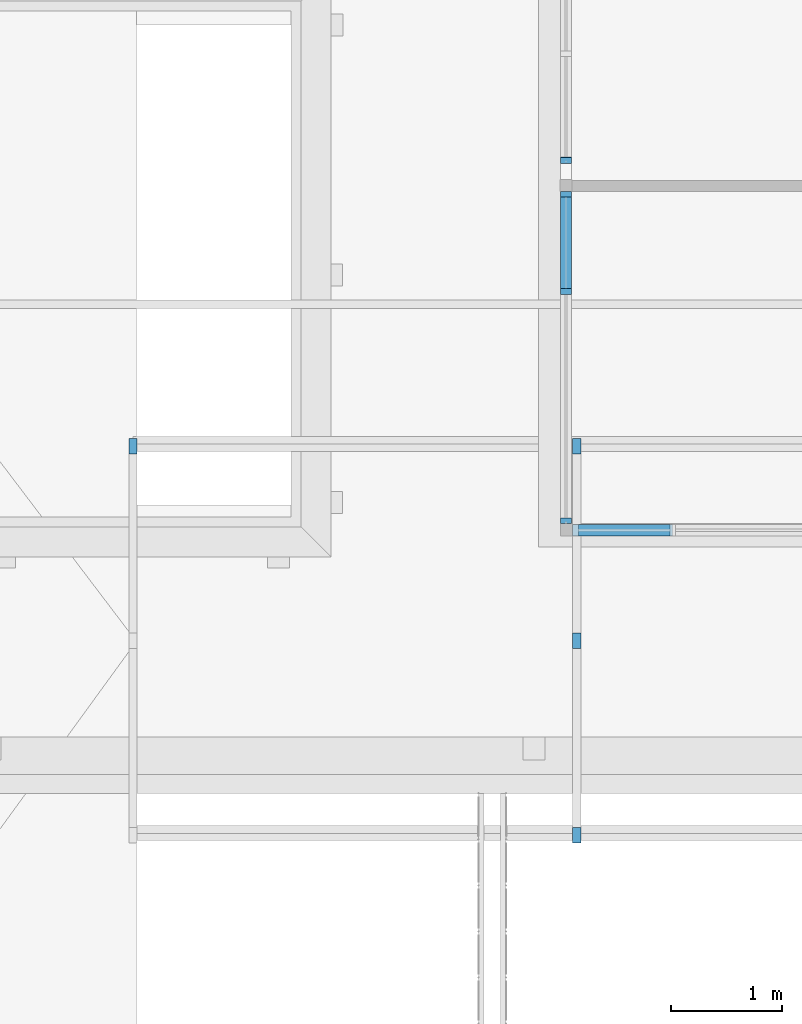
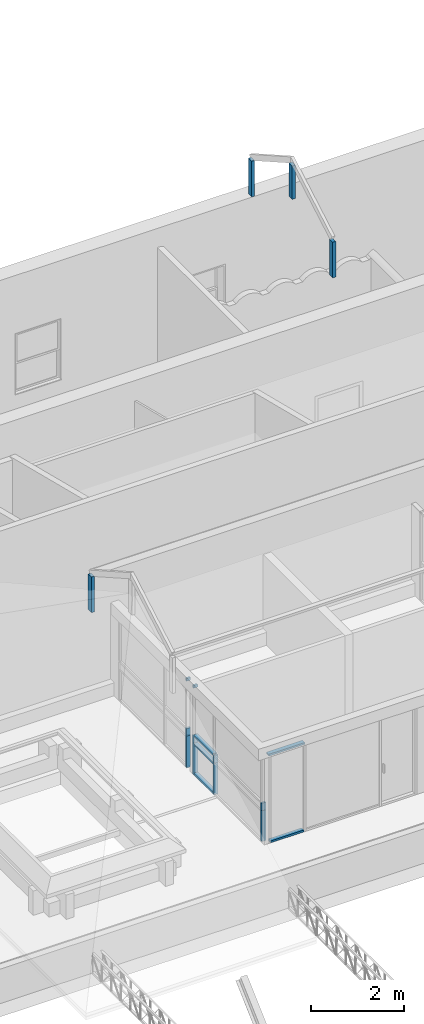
# One storey, part 34 of 153: 21 members, 5 elements without a shape of their own.
"""IFC4 building model written with IfcOpenShell, lengths in metres."""

import ifcopenshell
import ifcopenshell.guid

model = None  # the IFC model being written
_history = None  # IfcOwnerHistory: only IFC2X3 demands one
_inside = {}  # id of a spatial element -> (the spatial element, [elements in it])
_under = {}  # id of a project, library or spatial element -> (it, [spatial elements below it])
_declared = {}  # id of a project -> (the project, [libraries it declares])
_typed = {}  # id of a type object -> (the type object, [elements of that type])
_made_of = {}  # id of a material, layer set ... -> (it, [elements and type objects made of it])


def new_model(schema):
    """Start an empty IFC model of exactly this schema.

    Asked for "IFC4X3", IfcOpenShell would pick the latest addendum, in which some entities
    have other attributes; the version numbers below select the first issue.
    IFC2X3 requires an IfcOwnerHistory on every rooted entity: one is made here for all.
    """
    global model, _history
    if schema == "IFC4X3":
        model = ifcopenshell.file(schema_version=(4, 3, 0, 0))
    else:
        model = ifcopenshell.file(schema=schema)
    _inside.clear()
    _under.clear()
    _declared.clear()
    _typed.clear()
    _made_of.clear()
    _history = None
    if model.schema == "IFC2X3":
        org = make("IfcOrganization", Name="unknown")
        user = make(
            "IfcPersonAndOrganization",
            ThePerson=make("IfcPerson", FamilyName="unknown"),
            TheOrganization=org,
        )
        app = make(
            "IfcApplication",
            ApplicationDeveloper=org,
            Version="unknown",
            ApplicationFullName="unknown",
            ApplicationIdentifier="unknown",
        )
        _history = make(
            "IfcOwnerHistory",
            OwningUser=user,
            OwningApplication=app,
            ChangeAction="ADDED",
            CreationDate=0,
        )
    return model


def make(cls, **values):
    """One entity of the class cls with the attributes given. An attribute that is None is left unset."""
    return model.create_entity(
        cls, **{name: value for name, value in values.items() if value is not None}
    )


def entity(cls, *values):
    """Any entity or typed value of the class cls, its attributes in the order of the schema. None: left unset."""
    e = model.create_entity(cls)
    for i, value in enumerate(values):
        if value is not None:
            e[i] = value
    return e


def rooted(cls, **values):
    """An entity with a GlobalId (a new one), such as an element, a storey or a relation."""
    return make(cls, GlobalId=ifcopenshell.guid.new(), OwnerHistory=_history, **values)


def si_unit(unit_type, name, prefix=None):
    """IfcSIUnit, for example si_unit("LENGTHUNIT", "METRE", prefix="MILLI")."""
    return make("IfcSIUnit", UnitType=unit_type, Prefix=prefix, Name=name)


def converted_unit(unit_type, name, factor, base, dimensions=None, offset=None):
    """IfcConversionBasedUnit, such as the inch: factor (a typed value) times the base unit."""
    return make(
        "IfcConversionBasedUnit"
        if offset is None
        else "IfcConversionBasedUnitWithOffset",
        ConversionOffset=offset,
        Dimensions=None
        if dimensions is None
        else entity("IfcDimensionalExponents", *dimensions),
        UnitType=unit_type,
        Name=name,
        ConversionFactor=make(
            "IfcMeasureWithUnit", ValueComponent=factor, UnitComponent=base
        ),
    )


def derived_unit(unit_type, elements):
    """IfcDerivedUnit: a product of units, each with its exponent."""
    return make(
        "IfcDerivedUnit",
        Elements=[
            make("IfcDerivedUnitElement", Unit=unit, Exponent=power)
            for unit, power in elements
        ],
        UnitType=unit_type,
    )


def assignment(units):
    """IfcUnitAssignment: the units of a project."""
    return None if units is None else make("IfcUnitAssignment", Units=units)


def point(xyz):
    """IfcCartesianPoint."""
    return None if xyz is None else make("IfcCartesianPoint", Coordinates=xyz)


def direction(xyz):
    """IfcDirection."""
    return None if xyz is None else make("IfcDirection", DirectionRatios=xyz)


def frame(location, z_axis=None, x_axis=None):
    """IfcAxis2Placement3D, a coordinate frame: its origin and axes. An axis left out is left unset."""
    return make(
        "IfcAxis2Placement3D",
        Location=point(location),
        Axis=direction(z_axis),
        RefDirection=direction(x_axis),
    )


def origin():
    """The frame at (0, 0, 0) with its axes left unset."""
    return frame((0.0, 0.0, 0.0))


def place(relative_to, where):
    """IfcLocalPlacement: puts the frame where relative to a parent placement (None: the world)."""
    return make(
        "IfcLocalPlacement", PlacementRelTo=relative_to, RelativePlacement=where
    )


def context(
    kind, dimensions, precision=None, world=None, true_north=None, identifier=None
):
    """IfcGeometricRepresentationContext, for example the 3D "Model" context."""
    return make(
        "IfcGeometricRepresentationContext",
        ContextIdentifier=identifier,
        ContextType=kind,
        CoordinateSpaceDimension=dimensions,
        Precision=precision,
        WorldCoordinateSystem=world,
        TrueNorth=true_north,
    )


def subcontext(parent, identifier, kind, view, scale=None):
    """IfcGeometricRepresentationSubContext, for example "Body" below "Model"."""
    return make(
        "IfcGeometricRepresentationSubContext",
        ContextIdentifier=identifier,
        ContextType=kind,
        ParentContext=parent,
        TargetScale=scale,
        TargetView=view,
    )


def project(units=None, contexts=None):
    """IfcProject with its units and contexts."""
    return rooted(
        "IfcProject",
        Name="project",
        RepresentationContexts=contexts,
        UnitsInContext=assignment(units),
    )


def spatial(cls, under=None, at=None, **own):
    """A site, building, storey or space (cls), placed at a placement, below another one or the project."""
    s = rooted(cls, ObjectPlacement=at, **own)
    if under is not None:
        _under.setdefault(under.id(), (under, []))[1].append(s)
    return s


def point_list(points):
    """IfcCartesianPointList2D or 3D."""
    cls = (
        "IfcCartesianPointList2D" if len(points[0]) == 2 else "IfcCartesianPointList3D"
    )
    return make(cls, CoordList=points)


def indexed_curve(points, segments=None, self_intersect=None):
    """IfcIndexedPolyCurve: lines and arcs through numbered points (the first is 1)."""
    return make(
        "IfcIndexedPolyCurve",
        Points=point_list(points),
        Segments=segments,
        SelfIntersect=self_intersect,
    )


def outline(outer, holes=None, kind="AREA"):
    """IfcArbitraryClosedProfileDef: a profile drawn as a closed curve; with holes, ...WithVoids."""
    if holes is None:
        return make("IfcArbitraryClosedProfileDef", ProfileType=kind, OuterCurve=outer)
    return make(
        "IfcArbitraryProfileDefWithVoids",
        ProfileType=kind,
        OuterCurve=outer,
        InnerCurves=holes,
    )


def extrude(swept, where, along, depth):
    """IfcExtrudedAreaSolid: the profile swept, set in the frame where, extruded along a direction by depth."""
    return make(
        "IfcExtrudedAreaSolid",
        SweptArea=swept,
        Position=where,
        ExtrudedDirection=direction(along),
        Depth=depth,
    )


def shape(context_of_items, identifier, shape_type, items):
    """IfcShapeRepresentation: the items that make up one representation, for example the "Body"."""
    return make(
        "IfcShapeRepresentation",
        ContextOfItems=context_of_items,
        RepresentationIdentifier=identifier,
        RepresentationType=shape_type,
        Items=items,
    )


def source(mapping_origin, context_of_items, identifier, shape_type, items):
    """IfcRepresentationMap: a shape defined once, which mapped items show again and again."""
    return make(
        "IfcRepresentationMap",
        MappingOrigin=mapping_origin,
        MappedRepresentation=shape(context_of_items, identifier, shape_type, items),
    )


def transform(
    local_origin,
    x_axis=None,
    y_axis=None,
    z_axis=None,
    scale=None,
    scale2=None,
    scale3=None,
    uniform=True,
):
    """IfcCartesianTransformationOperator3D, or its non-uniform kind. x_axis, y_axis, z_axis: its Axis1, 2, 3."""
    if uniform:
        return make(
            "IfcCartesianTransformationOperator3D",
            Axis1=direction(x_axis),
            Axis2=direction(y_axis),
            LocalOrigin=point(local_origin),
            Scale=scale,
            Axis3=direction(z_axis),
        )
    return make(
        "IfcCartesianTransformationOperator3DnonUniform",
        Axis1=direction(x_axis),
        Axis2=direction(y_axis),
        LocalOrigin=point(local_origin),
        Scale=scale,
        Axis3=direction(z_axis),
        Scale2=scale2,
        Scale3=scale3,
    )


def mapped(mapping_source, mapping_target):
    """IfcMappedItem: shows the shape of a source again, moved by a transform."""
    return make(
        "IfcMappedItem", MappingSource=mapping_source, MappingTarget=mapping_target
    )


def material(Name=None, Category=None):
    """IfcMaterial."""
    return make("IfcMaterial", Name=Name, Category=Category)


def made_of(thing, what):
    """Note that an element or type object is made of a material, layer set ...; save() writes the relation."""
    if what is not None:
        _made_of.setdefault(what.id(), (what, []))[1].append(thing)
    return thing


def type_object(cls, material=None, **own):
    """A type object (cls), such as IfcWallType, which elements share."""
    return made_of(rooted(cls, **own), material)


def type_shapes(of_type, sources):
    """Give a type object the sources (RepresentationMaps) that its elements show as mapped items."""
    of_type.RepresentationMaps = sources


def element(
    cls,
    number,
    at=None,
    inside=None,
    cuts=None,
    type_object=None,
    material=None,
    context=None,
    identifier="Body",
    shape_type=None,
    held_by="IfcProductDefinitionShape",
    body=None,
    shapes=None,
    **own,
):
    """One element of the class cls, such as IfcWall. Its Tag is "e" and its number.

    at: its placement. inside: the storey or other place that contains it. cuts: it is an
    opening in that element (IfcRelVoidsElement). A single representation is given by context,
    identifier, shape_type and body (its items); several are given by shapes. held_by: the class
    of the entity that holds the representations. save() writes the other relations.
    """
    e = rooted(cls, Tag="e%d" % number, ObjectPlacement=at, **own)
    if body is not None:
        shapes = [shape(context, identifier, shape_type, body)]
    if shapes is not None:
        e.Representation = make(held_by, Representations=shapes)
    if inside is not None:
        _inside.setdefault(inside.id(), (inside, []))[1].append(e)
    if cuts is not None:
        rooted(
            "IfcRelVoidsElement", RelatingBuildingElement=cuts, RelatedOpeningElement=e
        )
    if type_object is not None:
        _typed.setdefault(type_object.id(), (type_object, []))[1].append(e)
    return made_of(e, material)


def aggregate(whole, parts):
    """IfcRelAggregates: a whole, such as a stair, and the parts it consists of."""
    return rooted("IfcRelAggregates", RelatingObject=whole, RelatedObjects=parts)


def save(model, path):
    """Write the relations noted so far, then the file.

    IfcRelAggregates (storeys below a building ...), IfcRelContainedInSpatialStructure (elements
    in a storey), IfcRelDefinesByType, IfcRelAssociatesMaterial and IfcRelDeclares: one each for
    every whole, place, type object, material and project.
    """
    for whole, parts in _under.values():
        aggregate(whole, parts)
    for where, things in _inside.values():
        rooted(
            "IfcRelContainedInSpatialStructure",
            RelatedElements=things,
            RelatingStructure=where,
        )
    for kind, things in _typed.values():
        rooted("IfcRelDefinesByType", RelatedObjects=things, RelatingType=kind)
    for what, things in _made_of.values():
        rooted("IfcRelAssociatesMaterial", RelatedObjects=things, RelatingMaterial=what)
    for by, libraries in _declared.values():
        rooted("IfcRelDeclares", RelatingContext=by, RelatedDefinitions=libraries)
    model.write(path)


model = new_model("IFC4")

# Units and contexts
model_context = context("Model", 3, precision=1e-05, world=origin(), true_north=direction((6.123031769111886e-17, 1.0)))
body_context = subcontext(model_context, "Body", "Model", "MODEL_VIEW")
ifc_project = project(units=[si_unit("LENGTHUNIT", "METRE"), si_unit("AREAUNIT", "SQUARE_METRE"), si_unit("VOLUMEUNIT", "CUBIC_METRE"), converted_unit("PLANEANGLEUNIT", "DEGREE", entity("IfcRatioMeasure", 0.017453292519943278), si_unit("PLANEANGLEUNIT", "RADIAN"), dimensions=[0, 0, 0, 0, 0, 0, 0]), si_unit("MASSUNIT", "GRAM", prefix="KILO"), derived_unit("MASSDENSITYUNIT", [(si_unit("MASSUNIT", "GRAM", prefix="KILO"), 1), (si_unit("LENGTHUNIT", "METRE"), -3)]), derived_unit("MOMENTOFINERTIAUNIT", [(si_unit("LENGTHUNIT", "METRE"), 4)]), si_unit("TIMEUNIT", "SECOND"), si_unit("FREQUENCYUNIT", "HERTZ"), si_unit("THERMODYNAMICTEMPERATUREUNIT", "DEGREE_CELSIUS"), derived_unit("THERMALTRANSMITTANCEUNIT", [(si_unit("MASSUNIT", "GRAM", prefix="KILO"), 1), (si_unit("THERMODYNAMICTEMPERATUREUNIT", "KELVIN"), -1), (si_unit("TIMEUNIT", "SECOND"), -3)]), derived_unit("VOLUMETRICFLOWRATEUNIT", [(si_unit("LENGTHUNIT", "METRE"), 3), (si_unit("TIMEUNIT", "SECOND"), -1)]), derived_unit("MASSFLOWRATEUNIT", [(si_unit("MASSUNIT", "GRAM", prefix="KILO"), 1), (si_unit("TIMEUNIT", "SECOND"), -1)]), derived_unit("ROTATIONALFREQUENCYUNIT", [(si_unit("TIMEUNIT", "SECOND"), -1)]), si_unit("ELECTRICCURRENTUNIT", "AMPERE"), si_unit("ELECTRICVOLTAGEUNIT", "VOLT"), si_unit("POWERUNIT", "WATT"), si_unit("FORCEUNIT", "NEWTON", prefix="KILO"), si_unit("ILLUMINANCEUNIT", "LUX"), si_unit("LUMINOUSFLUXUNIT", "LUMEN"), si_unit("LUMINOUSINTENSITYUNIT", "CANDELA"), derived_unit("USERDEFINED", [(si_unit("MASSUNIT", "GRAM", prefix="KILO"), -1), (si_unit("LENGTHUNIT", "METRE"), -2), (si_unit("TIMEUNIT", "SECOND"), 3), (si_unit("LUMINOUSFLUXUNIT", "LUMEN"), 1)]), derived_unit("SOUNDPOWERUNIT", [(si_unit("MASSUNIT", "GRAM", prefix="KILO"), 1), (si_unit("LENGTHUNIT", "METRE"), 2), (si_unit("TIMEUNIT", "SECOND"), -3)]), derived_unit("SOUNDPRESSUREUNIT", [(si_unit("MASSUNIT", "GRAM", prefix="KILO"), 1), (si_unit("LENGTHUNIT", "METRE"), -1), (si_unit("TIMEUNIT", "SECOND"), -2)]), derived_unit("LINEARVELOCITYUNIT", [(si_unit("LENGTHUNIT", "METRE"), 1), (si_unit("TIMEUNIT", "SECOND"), -1)]), si_unit("PRESSUREUNIT", "PASCAL"), derived_unit("USERDEFINED", [(si_unit("LENGTHUNIT", "METRE"), -2), (si_unit("MASSUNIT", "GRAM", prefix="KILO"), 1), (si_unit("TIMEUNIT", "SECOND"), -2)]), derived_unit("LINEARFORCEUNIT", [(si_unit("MASSUNIT", "GRAM", prefix="KILO"), 1), (si_unit("LENGTHUNIT", "METRE"), 1), (si_unit("TIMEUNIT", "SECOND"), -2), (si_unit("LENGTHUNIT", "METRE"), -1)]), derived_unit("PLANARFORCEUNIT", [(si_unit("MASSUNIT", "GRAM", prefix="KILO"), 1), (si_unit("LENGTHUNIT", "METRE"), 1), (si_unit("TIMEUNIT", "SECOND"), -2), (si_unit("LENGTHUNIT", "METRE"), -2)])], contexts=[model_context])

# Site, building, storey
site_placement = place(None, origin())
site = spatial("IfcSite", under=ifc_project, at=site_placement, Name="Superficie", CompositionType="ELEMENT")
building_placement = place(site_placement, origin())
building = spatial("IfcBuilding", under=site, at=building_placement, CompositionType="ELEMENT")
storey_placement = place(building_placement, frame((0.0, 0.0, 3.5999999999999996)))
storey = spatial("IfcBuildingStorey", under=building, at=storey_placement, Name="Nivel 1", CompositionType="ELEMENT", Elevation=3.5999999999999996)

# Curtain wall, members
curtain_wall_type = type_object("IfcCurtainWallType", Name="Muro cortina:Muro cortina - simple", PredefinedType="NOTDEFINED")
curtain_wall_1_placement = place(storey_placement, frame((0.0, 0.0, -3.5999999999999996)))
curtain_wall_1 = element("IfcCurtainWall", 1, at=curtain_wall_1_placement, inside=storey, type_object=curtain_wall_type, Name="Muro cortina:Muro cortina - simple", ObjectType="Muro cortina:Muro cortina - simple", PredefinedType="NOTDEFINED")
ifc_material_1 = material(Name="<Unnamed>")
member_type_1 = type_object("IfcMemberType", Name="Montante rectangular:Montante rectangular - 5 x 10 cm", PredefinedType="MULLION", material=ifc_material_1)
shared_shape_1 = source(origin(), body_context, "Body", "SweptSolid", [
    extrude(outline(indexed_curve([(-0.05, -0.025), (0.05, -0.025), (0.05, 0.025), (-0.05, 0.025), (-0.05, -0.025)], self_intersect=False)), frame((0.0, 0.0, -0.8250000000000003), z_axis=(0.0, 0.0, 1.0), x_axis=(0.0, -1.0, 0.0)), (0.0, 0.0, 1.0), 0.8249999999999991),
])
type_shapes(member_type_1, [shared_shape_1])
member_1_placement = place(curtain_wall_1_placement, frame((-13.023200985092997, 2.0363932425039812, 3.619999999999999), z_axis=(0.0, 1.0, 0.0), x_axis=(0.0, 0.0, 1.0)))
member_1 = element("IfcMember", 2, at=member_1_placement, type_object=member_type_1, material=ifc_material_1, Name="Montante rectangular:Montante rectangular - 5 x 10 cm", ObjectType="Montante rectangular:Montante rectangular - 5 x 10 cm", PredefinedType="MULLION", context=body_context, shape_type="MappedRepresentation", body=[
    mapped(shared_shape_1, transform((0.0, 0.0, 0.0), scale=1.0)),
])
member_2_placement = place(curtain_wall_1_placement, frame((-13.023200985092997, 2.0363932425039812, 4.63), z_axis=(0.0, 1.0, 0.0), x_axis=(0.0, 0.0, 1.0)))
member_2 = element("IfcMember", 3, at=member_2_placement, type_object=member_type_1, material=ifc_material_1, Name="Montante rectangular:Montante rectangular - 5 x 10 cm", ObjectType="Montante rectangular:Montante rectangular - 5 x 10 cm", PredefinedType="MULLION", context=body_context, shape_type="MappedRepresentation", body=[
    mapped(shared_shape_1, transform((0.0, 0.0, 0.0), scale=1.0)),
])
member_type_2 = type_object("IfcMemberType", Name="Montante rectangular:Montante rectangular - 5 x 10 cm", PredefinedType="MULLION", material=ifc_material_1)
shared_shape_2 = source(origin(), body_context, "Body", "SweptSolid", [
    extrude(outline(indexed_curve([(-0.05, -0.025), (0.05, -0.025), (0.05, 0.025), (-0.05, 0.025), (-0.05, -0.025)], self_intersect=False)), frame((0.0, 0.0, -0.19999999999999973), z_axis=(0.0, 0.0, 1.0), x_axis=(0.0, -1.0, 0.0)), (0.0, 0.0, 1.0), 0.19999999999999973),
])
type_shapes(member_type_2, [shared_shape_2])
member_3_placement = place(curtain_wall_1_placement, frame((-13.023200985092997, 1.1863932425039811, 4.43), z_axis=(0.0, 0.0, -1.0), x_axis=(0.0, 1.0, 0.0)))
member_3 = element("IfcMember", 4, at=member_3_placement, type_object=member_type_2, material=ifc_material_1, Name="Montante rectangular:Montante rectangular - 5 x 10 cm", ObjectType="Montante rectangular:Montante rectangular - 5 x 10 cm", PredefinedType="MULLION", context=body_context, shape_type="MappedRepresentation", body=[
    mapped(shared_shape_2, transform((0.0, 0.0, 0.0), scale=1.0)),
])

# Curtain wall, member
curtain_wall_2_placement = place(storey_placement, frame((0.0, 0.0, -3.5999999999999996)))
curtain_wall_2 = element("IfcCurtainWall", 5, at=curtain_wall_2_placement, inside=storey, type_object=curtain_wall_type, Name="Muro cortina:Muro cortina - simple", ObjectType="Muro cortina:Muro cortina - simple", PredefinedType="NOTDEFINED")
member_4_placement = place(curtain_wall_2_placement, frame((-13.023200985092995, 2.366393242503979, 4.43), z_axis=(0.0, 0.0, -1.0), x_axis=(0.0, 1.0, 0.0)))
member_4 = element("IfcMember", 6, at=member_4_placement, type_object=member_type_2, material=ifc_material_1, Name="Montante rectangular:Montante rectangular - 5 x 10 cm", ObjectType="Montante rectangular:Montante rectangular - 5 x 10 cm", PredefinedType="MULLION", context=body_context, shape_type="MappedRepresentation", body=[
    mapped(shared_shape_2, transform((0.0, 0.0, 0.0), scale=1.0)),
])

# Member
member_type_3 = type_object("IfcMemberType", Name="Montante rectangular:Montante rectangular - 5 x 10 cm", PredefinedType="MULLION", material=ifc_material_1)
shared_shape_3 = source(origin(), body_context, "Body", "SweptSolid", [
    extrude(outline(indexed_curve([(-0.05, -0.025), (0.05, -0.025), (0.05, 0.025), (-0.05, 0.025), (-0.05, -0.025)], self_intersect=False)), frame((0.0, 0.0, -0.8350000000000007), z_axis=(0.0, 0.0, 1.0), x_axis=(0.0, -1.0, 0.0)), (0.0, 0.0, 1.0), 0.8350000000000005),
])
type_shapes(member_type_3, [shared_shape_3])
member_5_placement = place(curtain_wall_1_placement, frame((-13.023200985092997, 1.186393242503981, 3.5949999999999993), z_axis=(0.0, 0.0, -1.0), x_axis=(0.0, 1.0, 0.0)))
member_5 = element("IfcMember", 7, at=member_5_placement, type_object=member_type_3, material=ifc_material_1, Name="Montante rectangular:Montante rectangular - 5 x 10 cm", ObjectType="Montante rectangular:Montante rectangular - 5 x 10 cm", PredefinedType="MULLION", context=body_context, shape_type="MappedRepresentation", body=[
    mapped(shared_shape_3, transform((0.0, 0.0, 0.0), scale=1.0)),
])

member_6_placement = place(curtain_wall_2_placement, frame((-13.023200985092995, 2.366393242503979, 3.5949999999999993), z_axis=(0.0, 0.0, -1.0), x_axis=(0.0, 1.0, 0.0)))
member_6 = element("IfcMember", 8, at=member_6_placement, type_object=member_type_3, material=ifc_material_1, Name="Montante rectangular:Montante rectangular - 5 x 10 cm", ObjectType="Montante rectangular:Montante rectangular - 5 x 10 cm", PredefinedType="MULLION", context=body_context, shape_type="MappedRepresentation", body=[
    mapped(shared_shape_3, transform((0.0, 0.0, 0.0), scale=1.0)),
])

member_type_4 = type_object("IfcMemberType", Name="Montante rectangular:Montante rectangular - 5 x 10 cm", PredefinedType="MULLION", material=ifc_material_1)
shared_shape_4 = source(origin(), body_context, "Body", "SweptSolid", [
    extrude(outline(indexed_curve([(-0.05, -0.025), (0.05, -0.025), (0.05, 0.025), (-0.05, 0.025), (-0.05, -0.025)], self_intersect=False)), frame((-0.025, 0.0, -0.19999999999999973), z_axis=(0.0, 0.0, 1.0), x_axis=(0.0, -1.0, 0.0)), (0.0, 0.0, 1.0), 0.19999999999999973),
])
type_shapes(member_type_4, [shared_shape_4])
member_7_placement = place(curtain_wall_1_placement, frame((-13.023200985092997, -0.9047671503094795, 4.63), z_axis=(0.0, 0.0, 1.0), x_axis=(0.0, -1.0, 0.0)))
member_7 = element("IfcMember", 9, at=member_7_placement, type_object=member_type_4, material=ifc_material_1, Name="Montante rectangular:Montante rectangular - 5 x 10 cm", ObjectType="Montante rectangular:Montante rectangular - 5 x 10 cm", PredefinedType="MULLION", context=body_context, shape_type="MappedRepresentation", body=[
    mapped(shared_shape_4, transform((0.0, 0.0, 0.0), scale=1.0)),
])

member_8_placement = place(curtain_wall_2_placement, frame((-13.023200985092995, 2.346393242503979, 4.63), z_axis=(0.0, 0.0, 1.0), x_axis=(0.0, -1.0, 0.0)))
member_8 = element("IfcMember", 10, at=member_8_placement, type_object=member_type_4, material=ifc_material_1, Name="Montante rectangular:Montante rectangular - 5 x 10 cm", ObjectType="Montante rectangular:Montante rectangular - 5 x 10 cm", PredefinedType="MULLION", context=body_context, shape_type="MappedRepresentation", body=[
    mapped(shared_shape_4, transform((0.0, 0.0, 0.0), scale=1.0)),
])

member_type_5 = type_object("IfcMemberType", Name="Montante rectangular:Montante rectangular - 5 x 10 cm", PredefinedType="MULLION", material=ifc_material_1)
shared_shape_5 = source(origin(), body_context, "Body", "SweptSolid", [
    extrude(outline(indexed_curve([(-0.05, -0.025), (0.05, -0.025), (0.05, 0.025), (-0.05, 0.025), (-0.05, -0.025)], self_intersect=False)), frame((0.0, 0.0, -0.07000000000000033), z_axis=(0.0, 0.0, 1.0), x_axis=(0.0, -1.0, 0.0)), (0.0, 0.0, 1.0), 0.07000000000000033),
])
type_shapes(member_type_5, [shared_shape_5])
member_9_placement = place(curtain_wall_2_placement, frame((-13.023200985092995, 2.366393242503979, 5.879999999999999), z_axis=(0.0, 0.0, -1.0), x_axis=(0.0, 1.0, 0.0)))
member_9 = element("IfcMember", 11, at=member_9_placement, type_object=member_type_5, material=ifc_material_1, Name="Montante rectangular:Montante rectangular - 5 x 10 cm", ObjectType="Montante rectangular:Montante rectangular - 5 x 10 cm", PredefinedType="MULLION", context=body_context, shape_type="MappedRepresentation", body=[
    mapped(shared_shape_5, transform((0.0, 0.0, 0.0), scale=1.0)),
])

member_type_6 = type_object("IfcMemberType", Name="Montante rectangular:Montante rectangular - 5 x 10 cm", PredefinedType="MULLION", material=ifc_material_1)
shared_shape_6 = source(origin(), body_context, "Body", "SweptSolid", [
    extrude(outline(indexed_curve([(-0.05, -0.025), (0.05, -0.025), (0.05, 0.025), (-0.05, 0.025), (-0.05, -0.025)], self_intersect=False)), frame((-0.025, 0.0, -0.8099999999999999), z_axis=(0.0, 0.0, 1.0), x_axis=(0.0, -1.0, 0.0)), (0.0, 0.0, 1.0), 0.8099999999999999),
])
type_shapes(member_type_6, [shared_shape_6])
member_10_placement = place(curtain_wall_1_placement, frame((-13.023200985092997, -0.9047671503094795, 4.43), z_axis=(0.0, 0.0, 1.0), x_axis=(0.0, -1.0, 0.0)))
member_10 = element("IfcMember", 12, at=member_10_placement, type_object=member_type_6, material=ifc_material_1, Name="Montante rectangular:Montante rectangular - 5 x 10 cm", ObjectType="Montante rectangular:Montante rectangular - 5 x 10 cm", PredefinedType="MULLION", context=body_context, shape_type="MappedRepresentation", body=[
    mapped(shared_shape_6, transform((0.0, 0.0, 0.0), scale=1.0)),
])

member_11_placement = place(curtain_wall_2_placement, frame((-13.023200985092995, 2.346393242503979, 4.43), z_axis=(0.0, 0.0, 1.0), x_axis=(0.0, -1.0, 0.0)))
member_11 = element("IfcMember", 13, at=member_11_placement, type_object=member_type_6, material=ifc_material_1, Name="Montante rectangular:Montante rectangular - 5 x 10 cm", ObjectType="Montante rectangular:Montante rectangular - 5 x 10 cm", PredefinedType="MULLION", context=body_context, shape_type="MappedRepresentation", body=[
    mapped(shared_shape_6, transform((0.0, 0.0, 0.0), scale=1.0)),
])

aggregate(curtain_wall_2, [member_11, member_8, member_4, member_9, member_6])

# Curtain wall, members
curtain_wall_3_placement = place(storey_placement, frame((0.0, 0.0, -3.5999999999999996)))
curtain_wall_3 = element("IfcCurtainWall", 14, at=curtain_wall_3_placement, inside=storey, type_object=curtain_wall_type, Name="Muro cortina:Muro cortina - simple", ObjectType="Muro cortina:Muro cortina - simple", PredefinedType="NOTDEFINED")
member_type_7 = type_object("IfcMemberType", Name="Montante rectangular:Montante rectangular - 5 x 10 cm", PredefinedType="MULLION", material=ifc_material_1)
shared_shape_7 = source(origin(), body_context, "Body", "SweptSolid", [
    extrude(outline(indexed_curve([(-0.05, -0.025), (0.05, -0.025), (0.05, 0.025), (-0.05, 0.025), (-0.05, -0.025)], self_intersect=False)), frame((-0.025, 0.0, -0.9), z_axis=(0.0, 0.0, 1.0), x_axis=(0.0, -1.0, 0.0)), (0.0, 0.0, 1.0), 0.9),
])
type_shapes(member_type_7, [shared_shape_7])
member_12_placement = place(curtain_wall_3_placement, frame((-12.063200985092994, -0.9636067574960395, 5.949999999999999), z_axis=(1.0, 0.0, 0.0), x_axis=(0.0, 0.0, 1.0)))
member_12 = element("IfcMember", 15, at=member_12_placement, type_object=member_type_7, material=ifc_material_1, Name="Montante rectangular:Montante rectangular - 5 x 10 cm", ObjectType="Montante rectangular:Montante rectangular - 5 x 10 cm", PredefinedType="MULLION", context=body_context, shape_type="MappedRepresentation", body=[
    mapped(shared_shape_7, transform((0.0, 0.0, 0.0), scale=1.0)),
])
member_type_8 = type_object("IfcMemberType", Name="Montante rectangular:Montante rectangular - 5 x 10 cm", PredefinedType="MULLION", material=ifc_material_1)
shared_shape_8 = source(origin(), body_context, "Body", "SweptSolid", [
    extrude(outline(indexed_curve([(-0.05, -0.025), (0.05, -0.025), (0.05, 0.025), (-0.05, 0.025), (-0.05, -0.025)], self_intersect=False)), frame((-0.025, 0.0, -0.8250000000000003), z_axis=(0.0, 0.0, 1.0), x_axis=(0.0, -1.0, 0.0)), (0.0, 0.0, 1.0), 0.8250000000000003),
])
type_shapes(member_type_8, [shared_shape_8])
member_13_placement = place(curtain_wall_3_placement, frame((-12.913200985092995, -0.9636067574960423, 3.5999999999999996), z_axis=(-1.0, 0.0, 0.0), x_axis=(0.0, 0.0, -1.0)))
member_13 = element("IfcMember", 16, at=member_13_placement, type_object=member_type_8, material=ifc_material_1, Name="Montante rectangular:Montante rectangular - 5 x 10 cm", ObjectType="Montante rectangular:Montante rectangular - 5 x 10 cm", PredefinedType="MULLION", context=body_context, shape_type="MappedRepresentation", body=[
    mapped(shared_shape_8, transform((0.0, 0.0, 0.0), scale=1.0)),
])
aggregate(curtain_wall_3, [member_12, member_13])

# Member
member_type_9 = type_object("IfcMemberType", Name="Montante rectangular:Montante rectangular - 5 x 10 cm", PredefinedType="MULLION", material=ifc_material_1)
shared_shape_9 = source(origin(), body_context, "Body", "SweptSolid", [
    extrude(outline(indexed_curve([(-0.05, -0.025), (0.05, -0.025), (0.05, 0.025), (-0.05, 0.025), (-0.05, -0.025)], self_intersect=False)), frame((-0.025, 0.0, -0.2), z_axis=(0.0, 0.0, 1.0), x_axis=(0.0, -1.0, 0.0)), (0.0, 0.0, 1.0), 0.2),
])
type_shapes(member_type_9, [shared_shape_9])
member_14_placement = place(curtain_wall_1_placement, frame((-13.023200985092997, 2.086393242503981, 4.43), z_axis=(0.0, 0.0, -1.0), x_axis=(0.0, 1.0, 0.0)))
member_14 = element("IfcMember", 17, at=member_14_placement, type_object=member_type_9, material=ifc_material_1, Name="Montante rectangular:Montante rectangular - 5 x 10 cm", ObjectType="Montante rectangular:Montante rectangular - 5 x 10 cm", PredefinedType="MULLION", context=body_context, shape_type="MappedRepresentation", body=[
    mapped(shared_shape_9, transform((0.0, 0.0, 0.0), scale=1.0)),
])

member_type_10 = type_object("IfcMemberType", Name="Montante rectangular:Montante rectangular - 5 x 10 cm", PredefinedType="MULLION", material=ifc_material_1)
shared_shape_10 = source(origin(), body_context, "Body", "SweptSolid", [
    extrude(outline(indexed_curve([(-0.05, -0.025), (0.05, -0.025), (0.05, 0.025), (-0.05, 0.025), (-0.05, -0.025)], self_intersect=False)), frame((-0.025, 0.0, -0.07000000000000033), z_axis=(0.0, 0.0, 1.0), x_axis=(0.0, -1.0, 0.0)), (0.0, 0.0, 1.0), 0.07000000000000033),
])
type_shapes(member_type_10, [shared_shape_10])
member_15_placement = place(curtain_wall_1_placement, frame((-13.023200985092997, 2.086393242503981, 5.879999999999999), z_axis=(0.0, 0.0, -1.0), x_axis=(0.0, 1.0, 0.0)))
member_15 = element("IfcMember", 18, at=member_15_placement, type_object=member_type_10, material=ifc_material_1, Name="Montante rectangular:Montante rectangular - 5 x 10 cm", ObjectType="Montante rectangular:Montante rectangular - 5 x 10 cm", PredefinedType="MULLION", context=body_context, shape_type="MappedRepresentation", body=[
    mapped(shared_shape_10, transform((0.0, 0.0, 0.0), scale=1.0)),
])

member_type_11 = type_object("IfcMemberType", Name="Montante rectangular:Montante rectangular - 5 x 10 cm", PredefinedType="MULLION", material=ifc_material_1)
shared_shape_11 = source(origin(), body_context, "Body", "SweptSolid", [
    extrude(outline(indexed_curve([(-0.05, -0.025), (0.05, -0.025), (0.05, 0.025), (-0.05, 0.025), (-0.05, -0.025)], self_intersect=False)), frame((-0.025, 0.0, -0.8250000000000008), z_axis=(0.0, 0.0, 1.0), x_axis=(0.0, -1.0, 0.0)), (0.0, 0.0, 1.0), 0.8250000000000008),
])
type_shapes(member_type_11, [shared_shape_11])
member_16_placement = place(curtain_wall_1_placement, frame((-13.023200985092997, 2.0363932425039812, 4.43), z_axis=(0.0, 1.0, 0.0), x_axis=(0.0, 0.0, 1.0)))
member_16 = element("IfcMember", 19, at=member_16_placement, type_object=member_type_11, material=ifc_material_1, Name="Montante rectangular:Montante rectangular - 5 x 10 cm", ObjectType="Montante rectangular:Montante rectangular - 5 x 10 cm", PredefinedType="MULLION", context=body_context, shape_type="MappedRepresentation", body=[
    mapped(shared_shape_11, transform((0.0, 0.0, 0.0), scale=1.0)),
])

member_type_12 = type_object("IfcMemberType", Name="Montante rectangular:Montante rectangular - 5 x 10 cm", PredefinedType="MULLION", material=ifc_material_1)
shared_shape_12 = source(origin(), body_context, "Body", "SweptSolid", [
    extrude(outline(indexed_curve([(-0.05, -0.025), (0.05, -0.025), (0.05, 0.025), (-0.05, 0.025), (-0.05, -0.025)], self_intersect=False)), frame((-0.025, 0.0, -0.8350000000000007), z_axis=(0.0, 0.0, 1.0), x_axis=(0.0, -1.0, 0.0)), (0.0, 0.0, 1.0), 0.8350000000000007),
])
type_shapes(member_type_12, [shared_shape_12])
member_17_placement = place(curtain_wall_1_placement, frame((-13.023200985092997, 2.086393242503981, 3.5949999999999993), z_axis=(0.0, 0.0, -1.0), x_axis=(0.0, 1.0, 0.0)))
member_17 = element("IfcMember", 20, at=member_17_placement, type_object=member_type_12, material=ifc_material_1, Name="Montante rectangular:Montante rectangular - 5 x 10 cm", ObjectType="Montante rectangular:Montante rectangular - 5 x 10 cm", PredefinedType="MULLION", context=body_context, shape_type="MappedRepresentation", body=[
    mapped(shared_shape_12, transform((0.0, 0.0, 0.0), scale=1.0)),
])

aggregate(curtain_wall_1, [member_16, member_3, member_1, member_10, member_7, member_2, member_14, member_17, member_15, member_5])

# Assembly, member
assembly_1_placement = place(storey_placement, origin())
assembly_1 = element("IfcElementAssembly", 21, at=assembly_1_placement, inside=storey, Name="Cercha superior:Cercha superior", ObjectType="Cercha superior:Cercha superior", AssemblyPlace="NOTDEFINED", PredefinedType="TRUSS")
ifc_material_2 = material(Name="Madera - Madera de construcción", Category="Madera")
member_type_13 = type_object("IfcMemberType", Name="Glulam-Pino del sur:76X140", PredefinedType="BRACE", material=ifc_material_2)
shared_shape_13 = source(origin(), body_context, "Body", "SweptSolid", [
    extrude(outline(indexed_curve([(-0.06999999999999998, -0.03800000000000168), (0.06999999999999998, -0.03800000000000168), (0.06999999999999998, 0.03800000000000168), (-0.06999999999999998, 0.03800000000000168), (-0.06999999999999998, -0.03800000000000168)], self_intersect=False)), frame((-0.5000000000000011, 0.0, 0.0), z_axis=(1.0, 0.0, 0.0), x_axis=(0.0, 0.0, -1.0)), (0.0, 0.0, 1.0), 0.939000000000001),
])
type_shapes(member_type_13, [shared_shape_13])
member_18_placement = place(assembly_1_placement, frame((-16.923200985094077, -0.20869495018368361, 7.53753807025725), z_axis=(0.0, -1.0, 0.0), x_axis=(0.0, 0.0, 1.0)))
member_18 = element("IfcMember", 22, at=member_18_placement, type_object=member_type_13, material=ifc_material_2, Name="Glulam-Pino del sur:76X140", ObjectType="Glulam-Pino del sur:76X140", PredefinedType="BRACE", context=body_context, shape_type="MappedRepresentation", body=[
    mapped(shared_shape_13, transform((0.0, 0.0, 0.0), scale=1.0)),
])
aggregate(assembly_1, [member_18])

# Assembly, members
assembly_2_placement = place(storey_placement, origin())
assembly_2 = element("IfcElementAssembly", 23, at=assembly_2_placement, inside=storey, Name="Cercha superior:Cercha superior", ObjectType="Cercha superior:Cercha superior", AssemblyPlace="NOTDEFINED", PredefinedType="TRUSS")
member_19_placement = place(building_placement, frame((-12.928073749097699, -0.20869495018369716, 20.699959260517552), z_axis=(0.0, -1.0, 0.0), x_axis=(0.0, 0.0, 1.0)))
member_19 = element("IfcMember", 24, at=member_19_placement, type_object=member_type_13, material=ifc_material_2, Name="Glulam-Pino del sur:76X140", ObjectType="Glulam-Pino del sur:76X140", PredefinedType="BRACE", context=body_context, shape_type="MappedRepresentation", body=[
    mapped(shared_shape_13, transform((0.0, 0.0, 0.0), scale=1.0)),
])
member_type_14 = type_object("IfcMemberType", Name="Glulam-Pino del sur:76X140", PredefinedType="BRACE", material=ifc_material_2)
shared_shape_14 = source(origin(), body_context, "Body", "SweptSolid", [
    extrude(outline(indexed_curve([(-0.06999999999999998, -0.03800000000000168), (0.06999999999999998, -0.03800000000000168), (0.06999999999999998, 0.03800000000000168), (-0.06999999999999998, 0.03800000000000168), (-0.06999999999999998, -0.03800000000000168)], self_intersect=False)), frame((-0.5000000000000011, 0.0, 0.0), z_axis=(1.0, 0.0, 0.0), x_axis=(0.0, 0.0, -1.0)), (0.0, 0.0, 1.0), 0.939000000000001),
])
type_shapes(member_type_14, [shared_shape_14])
member_20_placement = place(building_placement, frame((-12.928073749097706, -3.7086724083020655, 20.687397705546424), z_axis=(0.0, -1.0, 0.0), x_axis=(0.0, 0.0, 1.0)))
member_20 = element("IfcMember", 25, at=member_20_placement, type_object=member_type_14, material=ifc_material_2, Name="Glulam-Pino del sur:76X140", ObjectType="Glulam-Pino del sur:76X140", PredefinedType="BRACE", context=body_context, shape_type="MappedRepresentation", body=[
    mapped(shared_shape_14, transform((0.0, 0.0, 0.0), scale=1.0)),
])
member_type_15 = type_object("IfcMemberType", Name="Glulam-Pino del sur:76X140", PredefinedType="BRACE", material=ifc_material_2)
shared_shape_15 = source(origin(), body_context, "Body", "SweptSolid", [
    extrude(outline(indexed_curve([(-0.06999999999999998, -0.03800000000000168), (0.06999999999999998, -0.03800000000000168), (0.06999999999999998, 0.03800000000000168), (-0.06999999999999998, 0.03800000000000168), (-0.06999999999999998, -0.03800000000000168)], self_intersect=False)), frame((-0.5000000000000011, 0.0, 0.0), z_axis=(1.0, 0.0, 0.0), x_axis=(0.0, 0.0, -1.0)), (0.0, 0.0, 1.0), 0.8790000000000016),
])
type_shapes(member_type_15, [shared_shape_15])
member_21_placement = place(building_placement, frame((-12.928073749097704, -1.9586836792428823, 21.69367848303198), z_axis=(0.0, -1.0, 0.0), x_axis=(0.0, 0.0, 1.0)))
member_21 = element("IfcMember", 26, at=member_21_placement, type_object=member_type_15, material=ifc_material_2, Name="Glulam-Pino del sur:76X140", ObjectType="Glulam-Pino del sur:76X140", PredefinedType="BRACE", context=body_context, shape_type="MappedRepresentation", body=[
    mapped(shared_shape_15, transform((0.0, 0.0, 0.0), scale=1.0)),
])
aggregate(assembly_2, [member_19, member_20, member_21])

save(model, "model.ifc")
